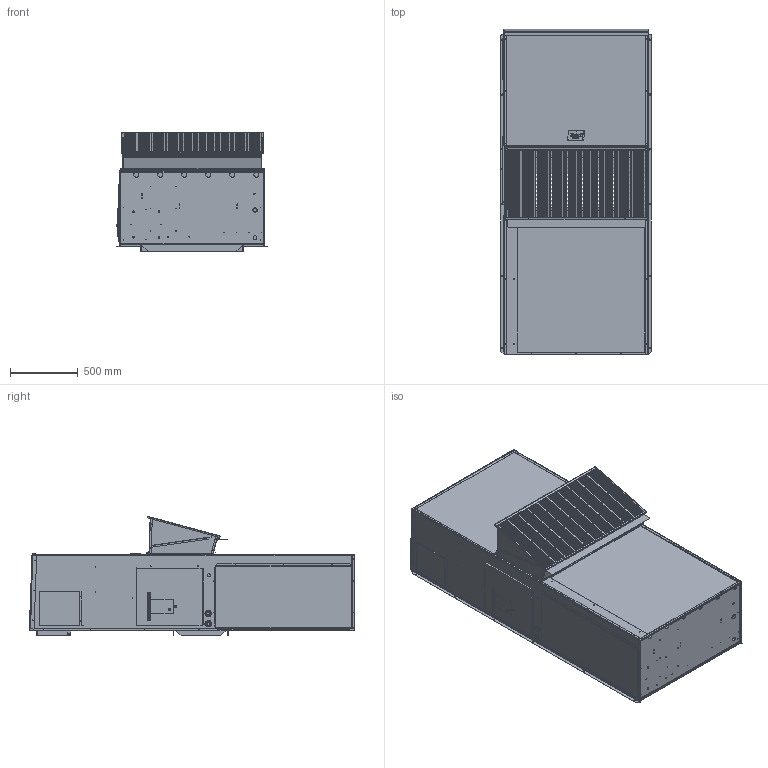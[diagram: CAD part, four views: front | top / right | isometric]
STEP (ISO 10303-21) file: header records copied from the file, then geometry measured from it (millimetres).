
FILE_DESCRIPTION (( 'STEP AP203' ), '1' );
FILE_NAME ('STEP_1500_11.STEP', '2016-06-29T15:31:03', ( 'BMC' ), ( 'Bard Manufacturing Co., Inc.' ), 'SwSTEP 2.0', 'SolidWorks 2016', '' );
FILE_SCHEMA (( 'CONFIG_CONTROL_DESIGN' ));
Products named in the file (1): STEP_1500_11
Bounding box: 1115.67 x 2410.46 x 882.41 mm (x, y, z)
Surface area: 21386084.5 mm2 (no closed solid volume)
Topology: 0 solids, 63 shells, 4082 faces, 13441 edges, 8900 vertices
Faces by surface type: plane 2603, cylinder 1064, torus 245, bspline 140, sphere 18, cone 12
Entity records: 164426 total; most frequent: CARTESIAN_POINT 44625, ORIENTED_EDGE 24028, DIRECTION 23377, EDGE_CURVE 13424, VECTOR 9969, LINE 9969, VERTEX_POINT 8895, AXIS2_PLACEMENT_3D 6704
